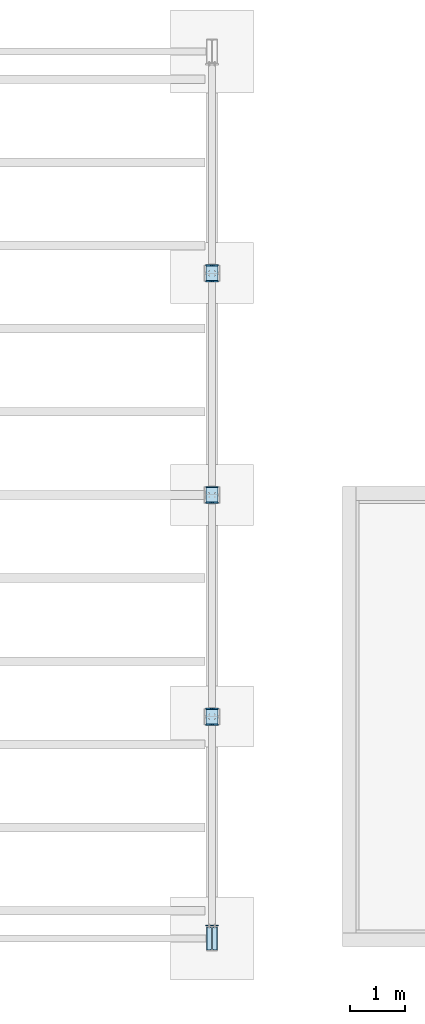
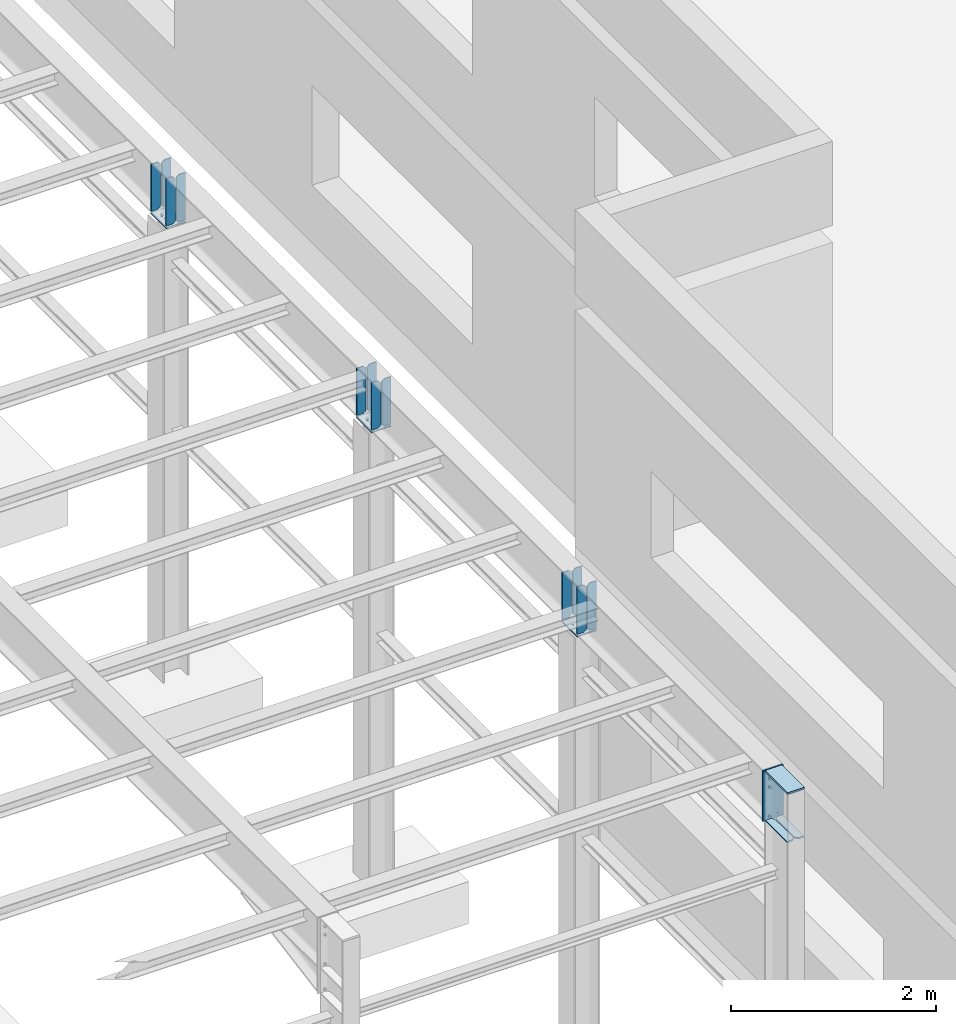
# Not in any storey, part 10 of 50: 19 plates, 46 openings.
"""IFC4 model written with IfcOpenShell, lengths in metres."""

from ifc_helpers import new_model, entity, si_unit, converted_unit, derived_unit, direction, frame, frame_2d, origin, origin_with_axes, origin_2d_with_axis, place, context, project, spatial, polyline, circle, outline, extrude, material, layer, layer_set, element, save


model = new_model("IFC4")

# Units and contexts
model_context = context("Model", 3, precision=1e-05, world=origin(), true_north=direction((6.123233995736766e-17, 1.0)))
ifc_project = project(units=[si_unit("LENGTHUNIT", "METRE"), si_unit("AREAUNIT", "SQUARE_METRE"), converted_unit("PLANEANGLEUNIT", "DEGREE", entity("IfcPlaneAngleMeasure", 0.017453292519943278), si_unit("PLANEANGLEUNIT", "RADIAN"), dimensions=[0, 0, 0, 0, 0, 0, 0]), si_unit("VOLUMEUNIT", "CUBIC_METRE"), derived_unit("THERMALTRANSMITTANCEUNIT", [(si_unit("MASSUNIT", "GRAM", prefix="KILO"), 1), (si_unit("THERMODYNAMICTEMPERATUREUNIT", "KELVIN"), -1), (si_unit("TIMEUNIT", "SECOND"), -3)])], contexts=[model_context])

# Site
site_placement = place(None, origin())
site = spatial("IfcSite", under=ifc_project, at=site_placement, Name="Default", CompositionType="ELEMENT")

# Plate, openings
ifc_material = material(Name="Dachdeckung - Blechdach")
ifc_layer_1 = layer(ifc_material, 15.0)
ifc_layer_set_1 = layer_set([ifc_layer_1], Name="Dachdeckung - Blechdach")
plate_1_placement = place(site_placement, frame((23.300144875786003, 6.07976753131, 5.385), z_axis=(0.0, 0.0, 1.0), x_axis=(-1.0, 0.0, 0.0)))
plate_1 = element("IfcPlate", 1, at=plate_1_placement, inside=site, material=ifc_layer_set_1, Name="Endplate", ObjectType="Endplate", context=model_context, shape_type="SweptSolid", body=[
    extrude(outline(polyline([(0.0, 0.0), (0.22, 0.0), (0.22, 0.3), (0.0, 0.3), (0.0, 0.0)])), origin_with_axes(), (0.0, 0.0, 1.0), 0.015),
])
opening_1_placement = place(plate_1_placement, frame((0.11, 0.15, -0.0005), z_axis=(0.0, 0.0, 1.0), x_axis=(0.0, 1.0, 0.0)))
element("IfcOpeningElement", 2, at=opening_1_placement, cuts=plate_1, ObjectType="Opening", context=model_context, shape_type="SweptSolid", body=[
    extrude(circle(Radius=0.009000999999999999, at=frame_2d((0.0375, 0.05), x_axis=(1.0, 0.0))), origin(), (0.0, 0.0, 1.0), 0.016),
])
opening_2_placement = place(plate_1_placement, frame((0.11, 0.15, -0.0005), z_axis=(0.0, 0.0, 1.0), x_axis=(0.0, 1.0, 0.0)))
element("IfcOpeningElement", 3, at=opening_2_placement, cuts=plate_1, ObjectType="Opening", context=model_context, shape_type="SweptSolid", body=[
    extrude(circle(Radius=0.009000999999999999, at=frame_2d((-0.0375, 0.05), x_axis=(1.0, 0.0))), origin(), (0.0, 0.0, 1.0), 0.016),
])
opening_3_placement = place(plate_1_placement, frame((0.11, 0.15, -0.0005), z_axis=(0.0, 0.0, 1.0), x_axis=(0.0, 1.0, 0.0)))
element("IfcOpeningElement", 4, at=opening_3_placement, cuts=plate_1, ObjectType="Opening", context=model_context, shape_type="SweptSolid", body=[
    extrude(circle(Radius=0.009000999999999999, at=frame_2d((0.0375, -0.05), x_axis=(1.0, 0.0))), origin(), (0.0, 0.0, 1.0), 0.016),
])
opening_4_placement = place(plate_1_placement, frame((0.11, 0.15, -0.0005), z_axis=(0.0, 0.0, 1.0), x_axis=(0.0, 1.0, 0.0)))
element("IfcOpeningElement", 5, at=opening_4_placement, cuts=plate_1, ObjectType="Opening", context=model_context, shape_type="SweptSolid", body=[
    extrude(circle(Radius=0.009000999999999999, at=frame_2d((-0.0375, -0.05), x_axis=(1.0, 0.0))), origin(), (0.0, 0.0, 1.0), 0.016),
])

ifc_layer_2 = layer(ifc_material, 14.0)
ifc_layer_set_2 = layer_set([ifc_layer_2], Name="Dachdeckung - Blechdach")
plate_2_placement = place(site_placement, frame((23.184144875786, 5.77976753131, 5.419), z_axis=(0.0, 1.0, 0.0), x_axis=(-1.0, 0.0, 0.0)))
plate_2 = element("IfcPlate", 6, at=plate_2_placement, inside=site, material=ifc_layer_set_2, Name="Stiffener#1", ObjectType="Stiffener#1", context=model_context, shape_type="SweptSolid", body=[
    extrude(outline(polyline([(0.0, 0.0), (0.104, 0.0), (0.104, 0.562), (0.0, 0.562), (0.0, 0.0)])), origin_with_axes(), (0.0, 0.0, 1.0), 0.014),
])
opening_5_placement = place(plate_2_placement, frame((0.0, 0.0, -1e-05), z_axis=(0.0, 0.0, 1.0), x_axis=(1.0, 0.0, 0.0)))
element("IfcOpeningElement", 7, at=opening_5_placement, cuts=plate_2, ObjectType="Opening", context=model_context, shape_type="SweptSolid", body=[
    extrude(outline(polyline([(0.0, 0.562), (0.0, 0.532), (0.03, 0.562), (0.0, 0.562)])), origin(), (0.0, 0.0, 1.0), 0.01402),
])
opening_6_placement = place(plate_2_placement, frame((0.0, 0.0, -1e-05), z_axis=(0.0, 0.0, 1.0), x_axis=(1.0, 0.0, 0.0)))
element("IfcOpeningElement", 8, at=opening_6_placement, cuts=plate_2, ObjectType="Opening", context=model_context, shape_type="SweptSolid", body=[
    extrude(outline(polyline([(0.0, 0.0), (0.03, 0.0), (0.0, 0.03), (0.0, 0.0)])), origin(), (0.0, 0.0, 1.0), 0.01402),
])

plate_3_placement = place(site_placement, frame((23.300144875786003, 5.77976753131, 5.419), z_axis=(0.0, 1.0, 0.0), x_axis=(-1.0, 0.0, 0.0)))
plate_3 = element("IfcPlate", 9, at=plate_3_placement, inside=site, material=ifc_layer_set_2, Name="Stiffener#2", ObjectType="Stiffener#2", context=model_context, shape_type="SweptSolid", body=[
    extrude(outline(polyline([(0.0, 0.0), (0.104, 0.0), (0.104, 0.562), (0.0, 0.562), (0.0, 0.0)])), origin_with_axes(), (0.0, 0.0, 1.0), 0.014),
])
opening_7_placement = place(plate_3_placement, frame((0.0, 0.0, -1e-05), z_axis=(0.0, 0.0, 1.0), x_axis=(1.0, 0.0, 0.0)))
element("IfcOpeningElement", 10, at=opening_7_placement, cuts=plate_3, ObjectType="Opening", context=model_context, shape_type="SweptSolid", body=[
    extrude(outline(polyline([(0.104, 0.562), (0.074, 0.562), (0.104, 0.532), (0.104, 0.562)])), origin(), (0.0, 0.0, 1.0), 0.01402),
])
opening_8_placement = place(plate_3_placement, frame((0.0, 0.0, -1e-05), z_axis=(0.0, 0.0, 1.0), x_axis=(1.0, 0.0, 0.0)))
element("IfcOpeningElement", 11, at=opening_8_placement, cuts=plate_3, ObjectType="Opening", context=model_context, shape_type="SweptSolid", body=[
    extrude(outline(polyline([(0.104, 0.0), (0.104, 0.03), (0.074, 0.0), (0.104, 0.0)])), origin(), (0.0, 0.0, 1.0), 0.01402),
])

plate_4_placement = place(site_placement, frame((23.080144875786, 6.07976753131, 5.419), z_axis=(0.0, -1.0, 0.0), x_axis=(1.0, 0.0, 0.0)))
plate_4 = element("IfcPlate", 12, at=plate_4_placement, inside=site, material=ifc_layer_set_2, Name="Stiffener#3", ObjectType="Stiffener#3", context=model_context, shape_type="SweptSolid", body=[
    extrude(outline(polyline([(0.0, 0.0), (0.104, 0.0), (0.104, 0.562), (0.0, 0.562), (0.0, 0.0)])), origin_with_axes(), (0.0, 0.0, 1.0), 0.014),
])
opening_9_placement = place(plate_4_placement, frame((0.0, 0.0, -1e-05), z_axis=(0.0, 0.0, 1.0), x_axis=(1.0, 0.0, 0.0)))
element("IfcOpeningElement", 13, at=opening_9_placement, cuts=plate_4, ObjectType="Opening", context=model_context, shape_type="SweptSolid", body=[
    extrude(outline(polyline([(0.104, 0.562), (0.074, 0.562), (0.104, 0.532), (0.104, 0.562)])), origin(), (0.0, 0.0, 1.0), 0.01402),
])
opening_10_placement = place(plate_4_placement, frame((0.0, 0.0, -1e-05), z_axis=(0.0, 0.0, 1.0), x_axis=(1.0, 0.0, 0.0)))
element("IfcOpeningElement", 14, at=opening_10_placement, cuts=plate_4, ObjectType="Opening", context=model_context, shape_type="SweptSolid", body=[
    extrude(outline(polyline([(0.104, 0.0), (0.104, 0.03), (0.074, 0.0), (0.104, 0.0)])), origin(), (0.0, 0.0, 1.0), 0.01402),
])

plate_5_placement = place(site_placement, frame((23.196144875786, 6.07976753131, 5.419), z_axis=(0.0, -1.0, 0.0), x_axis=(1.0, 0.0, 0.0)))
plate_5 = element("IfcPlate", 15, at=plate_5_placement, inside=site, material=ifc_layer_set_2, Name="Stiffener#4", ObjectType="Stiffener#4", context=model_context, shape_type="SweptSolid", body=[
    extrude(outline(polyline([(0.0, 0.0), (0.104, 0.0), (0.104, 0.562), (0.0, 0.562), (0.0, 0.0)])), origin_with_axes(), (0.0, 0.0, 1.0), 0.014),
])
opening_11_placement = place(plate_5_placement, frame((0.0, 0.0, -1e-05), z_axis=(0.0, 0.0, 1.0), x_axis=(1.0, 0.0, 0.0)))
element("IfcOpeningElement", 16, at=opening_11_placement, cuts=plate_5, ObjectType="Opening", context=model_context, shape_type="SweptSolid", body=[
    extrude(outline(polyline([(0.0, 0.562), (0.0, 0.532), (0.03, 0.562), (0.0, 0.562)])), origin(), (0.0, 0.0, 1.0), 0.01402),
])
opening_12_placement = place(plate_5_placement, frame((0.0, 0.0, -1e-05), z_axis=(0.0, 0.0, 1.0), x_axis=(1.0, 0.0, 0.0)))
element("IfcOpeningElement", 17, at=opening_12_placement, cuts=plate_5, ObjectType="Opening", context=model_context, shape_type="SweptSolid", body=[
    extrude(outline(polyline([(0.0, 0.0), (0.03, 0.0), (0.0, 0.03), (0.0, 0.0)])), origin(), (0.0, 0.0, 1.0), 0.01402),
])

plate_6_placement = place(site_placement, frame((23.300144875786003, 10.07976753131, 5.385), z_axis=(0.0, 0.0, 1.0), x_axis=(-1.0, 0.0, 0.0)))
plate_6 = element("IfcPlate", 18, at=plate_6_placement, inside=site, material=ifc_layer_set_1, Name="Endplate", ObjectType="Endplate", context=model_context, shape_type="SweptSolid", body=[
    extrude(outline(polyline([(0.0, 0.0), (0.22, 0.0), (0.22, 0.3), (0.0, 0.3), (0.0, 0.0)])), origin_with_axes(), (0.0, 0.0, 1.0), 0.015),
])
opening_13_placement = place(plate_6_placement, frame((0.11, 0.15, -0.0005), z_axis=(0.0, 0.0, 1.0), x_axis=(0.0, 1.0, 0.0)))
element("IfcOpeningElement", 19, at=opening_13_placement, cuts=plate_6, ObjectType="Opening", context=model_context, shape_type="SweptSolid", body=[
    extrude(circle(Radius=0.009000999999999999, at=frame_2d((0.0375, 0.05), x_axis=(1.0, 0.0))), origin(), (0.0, 0.0, 1.0), 0.016),
])
opening_14_placement = place(plate_6_placement, frame((0.11, 0.15, -0.0005), z_axis=(0.0, 0.0, 1.0), x_axis=(0.0, 1.0, 0.0)))
element("IfcOpeningElement", 20, at=opening_14_placement, cuts=plate_6, ObjectType="Opening", context=model_context, shape_type="SweptSolid", body=[
    extrude(circle(Radius=0.009000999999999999, at=frame_2d((-0.0375, 0.05), x_axis=(1.0, 0.0))), origin(), (0.0, 0.0, 1.0), 0.016),
])
opening_15_placement = place(plate_6_placement, frame((0.11, 0.15, -0.0005), z_axis=(0.0, 0.0, 1.0), x_axis=(0.0, 1.0, 0.0)))
element("IfcOpeningElement", 21, at=opening_15_placement, cuts=plate_6, ObjectType="Opening", context=model_context, shape_type="SweptSolid", body=[
    extrude(circle(Radius=0.009000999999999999, at=frame_2d((0.0375, -0.05), x_axis=(1.0, 0.0))), origin(), (0.0, 0.0, 1.0), 0.016),
])
opening_16_placement = place(plate_6_placement, frame((0.11, 0.15, -0.0005), z_axis=(0.0, 0.0, 1.0), x_axis=(0.0, 1.0, 0.0)))
element("IfcOpeningElement", 22, at=opening_16_placement, cuts=plate_6, ObjectType="Opening", context=model_context, shape_type="SweptSolid", body=[
    extrude(circle(Radius=0.009000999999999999, at=frame_2d((-0.0375, -0.05), x_axis=(1.0, 0.0))), origin(), (0.0, 0.0, 1.0), 0.016),
])

plate_7_placement = place(site_placement, frame((23.184144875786, 9.77976753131, 5.419), z_axis=(0.0, 1.0, 0.0), x_axis=(-1.0, 0.0, 0.0)))
plate_7 = element("IfcPlate", 23, at=plate_7_placement, inside=site, material=ifc_layer_set_2, Name="Stiffener#1", ObjectType="Stiffener#1", context=model_context, shape_type="SweptSolid", body=[
    extrude(outline(polyline([(0.0, 0.0), (0.104, 0.0), (0.104, 0.562), (0.0, 0.562), (0.0, 0.0)])), origin_with_axes(), (0.0, 0.0, 1.0), 0.014),
])
opening_17_placement = place(plate_7_placement, frame((0.0, 0.0, -1e-05), z_axis=(0.0, 0.0, 1.0), x_axis=(1.0, 0.0, 0.0)))
element("IfcOpeningElement", 24, at=opening_17_placement, cuts=plate_7, ObjectType="Opening", context=model_context, shape_type="SweptSolid", body=[
    extrude(outline(polyline([(0.0, 0.562), (0.0, 0.532), (0.03, 0.562), (0.0, 0.562)])), origin(), (0.0, 0.0, 1.0), 0.01402),
])
opening_18_placement = place(plate_7_placement, frame((0.0, 0.0, -1e-05), z_axis=(0.0, 0.0, 1.0), x_axis=(1.0, 0.0, 0.0)))
element("IfcOpeningElement", 25, at=opening_18_placement, cuts=plate_7, ObjectType="Opening", context=model_context, shape_type="SweptSolid", body=[
    extrude(outline(polyline([(0.0, 0.0), (0.03, 0.0), (0.0, 0.03), (0.0, 0.0)])), origin(), (0.0, 0.0, 1.0), 0.01402),
])

plate_8_placement = place(site_placement, frame((23.300144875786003, 9.77976753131, 5.419), z_axis=(0.0, 1.0, 0.0), x_axis=(-1.0, 0.0, 0.0)))
plate_8 = element("IfcPlate", 26, at=plate_8_placement, inside=site, material=ifc_layer_set_2, Name="Stiffener#2", ObjectType="Stiffener#2", context=model_context, shape_type="SweptSolid", body=[
    extrude(outline(polyline([(0.0, 0.0), (0.104, 0.0), (0.104, 0.562), (0.0, 0.562), (0.0, 0.0)])), origin_with_axes(), (0.0, 0.0, 1.0), 0.014),
])
opening_19_placement = place(plate_8_placement, frame((0.0, 0.0, -1e-05), z_axis=(0.0, 0.0, 1.0), x_axis=(1.0, 0.0, 0.0)))
element("IfcOpeningElement", 27, at=opening_19_placement, cuts=plate_8, ObjectType="Opening", context=model_context, shape_type="SweptSolid", body=[
    extrude(outline(polyline([(0.104, 0.562), (0.074, 0.562), (0.104, 0.532), (0.104, 0.562)])), origin(), (0.0, 0.0, 1.0), 0.01402),
])
opening_20_placement = place(plate_8_placement, frame((0.0, 0.0, -1e-05), z_axis=(0.0, 0.0, 1.0), x_axis=(1.0, 0.0, 0.0)))
element("IfcOpeningElement", 28, at=opening_20_placement, cuts=plate_8, ObjectType="Opening", context=model_context, shape_type="SweptSolid", body=[
    extrude(outline(polyline([(0.104, 0.0), (0.104, 0.03), (0.074, 0.0), (0.104, 0.0)])), origin(), (0.0, 0.0, 1.0), 0.01402),
])

plate_9_placement = place(site_placement, frame((23.080144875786, 10.07976753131, 5.419), z_axis=(0.0, -1.0, 0.0), x_axis=(1.0, 0.0, 0.0)))
plate_9 = element("IfcPlate", 29, at=plate_9_placement, inside=site, material=ifc_layer_set_2, Name="Stiffener#3", ObjectType="Stiffener#3", context=model_context, shape_type="SweptSolid", body=[
    extrude(outline(polyline([(0.0, 0.0), (0.104, 0.0), (0.104, 0.562), (0.0, 0.562), (0.0, 0.0)])), origin_with_axes(), (0.0, 0.0, 1.0), 0.014),
])
opening_21_placement = place(plate_9_placement, frame((0.0, 0.0, -1e-05), z_axis=(0.0, 0.0, 1.0), x_axis=(1.0, 0.0, 0.0)))
element("IfcOpeningElement", 30, at=opening_21_placement, cuts=plate_9, ObjectType="Opening", context=model_context, shape_type="SweptSolid", body=[
    extrude(outline(polyline([(0.104, 0.562), (0.074, 0.562), (0.104, 0.532), (0.104, 0.562)])), origin(), (0.0, 0.0, 1.0), 0.01402),
])
opening_22_placement = place(plate_9_placement, frame((0.0, 0.0, -1e-05), z_axis=(0.0, 0.0, 1.0), x_axis=(1.0, 0.0, 0.0)))
element("IfcOpeningElement", 31, at=opening_22_placement, cuts=plate_9, ObjectType="Opening", context=model_context, shape_type="SweptSolid", body=[
    extrude(outline(polyline([(0.104, 0.0), (0.104, 0.03), (0.074, 0.0), (0.104, 0.0)])), origin(), (0.0, 0.0, 1.0), 0.01402),
])

plate_10_placement = place(site_placement, frame((23.196144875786, 10.07976753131, 5.419), z_axis=(0.0, -1.0, 0.0), x_axis=(1.0, 0.0, 0.0)))
plate_10 = element("IfcPlate", 32, at=plate_10_placement, inside=site, material=ifc_layer_set_2, Name="Stiffener#4", ObjectType="Stiffener#4", context=model_context, shape_type="SweptSolid", body=[
    extrude(outline(polyline([(0.0, 0.0), (0.104, 0.0), (0.104, 0.562), (0.0, 0.562), (0.0, 0.0)])), origin_with_axes(), (0.0, 0.0, 1.0), 0.014),
])
opening_23_placement = place(plate_10_placement, frame((0.0, 0.0, -1e-05), z_axis=(0.0, 0.0, 1.0), x_axis=(1.0, 0.0, 0.0)))
element("IfcOpeningElement", 33, at=opening_23_placement, cuts=plate_10, ObjectType="Opening", context=model_context, shape_type="SweptSolid", body=[
    extrude(outline(polyline([(0.0, 0.562), (0.0, 0.532), (0.03, 0.562), (0.0, 0.562)])), origin(), (0.0, 0.0, 1.0), 0.01402),
])
opening_24_placement = place(plate_10_placement, frame((0.0, 0.0, -1e-05), z_axis=(0.0, 0.0, 1.0), x_axis=(1.0, 0.0, 0.0)))
element("IfcOpeningElement", 34, at=opening_24_placement, cuts=plate_10, ObjectType="Opening", context=model_context, shape_type="SweptSolid", body=[
    extrude(outline(polyline([(0.0, 0.0), (0.03, 0.0), (0.0, 0.03), (0.0, 0.0)])), origin(), (0.0, 0.0, 1.0), 0.01402),
])

plate_11_placement = place(site_placement, frame((23.300144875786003, 14.07976753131, 5.385), z_axis=(0.0, 0.0, 1.0), x_axis=(-1.0, 0.0, 0.0)))
plate_11 = element("IfcPlate", 35, at=plate_11_placement, inside=site, material=ifc_layer_set_1, Name="Endplate", ObjectType="Endplate", context=model_context, shape_type="SweptSolid", body=[
    extrude(outline(polyline([(0.0, 0.0), (0.22, 0.0), (0.22, 0.3), (0.0, 0.3), (0.0, 0.0)])), origin_with_axes(), (0.0, 0.0, 1.0), 0.015),
])
opening_25_placement = place(plate_11_placement, frame((0.11, 0.15, -0.0005), z_axis=(0.0, 0.0, 1.0), x_axis=(0.0, -1.0, 0.0)))
element("IfcOpeningElement", 36, at=opening_25_placement, cuts=plate_11, ObjectType="Opening", context=model_context, shape_type="SweptSolid", body=[
    extrude(circle(Radius=0.009000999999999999, at=frame_2d((0.0375, 0.05), x_axis=(1.0, 0.0))), origin(), (0.0, 0.0, 1.0), 0.016),
])
opening_26_placement = place(plate_11_placement, frame((0.11, 0.15, -0.0005), z_axis=(0.0, 0.0, 1.0), x_axis=(0.0, -1.0, 0.0)))
element("IfcOpeningElement", 37, at=opening_26_placement, cuts=plate_11, ObjectType="Opening", context=model_context, shape_type="SweptSolid", body=[
    extrude(circle(Radius=0.009000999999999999, at=frame_2d((-0.0375, 0.05), x_axis=(1.0, 0.0))), origin(), (0.0, 0.0, 1.0), 0.016),
])
opening_27_placement = place(plate_11_placement, frame((0.11, 0.15, -0.0005), z_axis=(0.0, 0.0, 1.0), x_axis=(0.0, -1.0, 0.0)))
element("IfcOpeningElement", 38, at=opening_27_placement, cuts=plate_11, ObjectType="Opening", context=model_context, shape_type="SweptSolid", body=[
    extrude(circle(Radius=0.009000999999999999, at=frame_2d((0.0375, -0.05), x_axis=(1.0, 0.0))), origin(), (0.0, 0.0, 1.0), 0.016),
])
opening_28_placement = place(plate_11_placement, frame((0.11, 0.15, -0.0005), z_axis=(0.0, 0.0, 1.0), x_axis=(0.0, -1.0, 0.0)))
element("IfcOpeningElement", 39, at=opening_28_placement, cuts=plate_11, ObjectType="Opening", context=model_context, shape_type="SweptSolid", body=[
    extrude(circle(Radius=0.009000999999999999, at=frame_2d((-0.0375, -0.05), x_axis=(1.0, 0.0))), origin(), (0.0, 0.0, 1.0), 0.016),
])

plate_12_placement = place(site_placement, frame((23.080144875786, 14.07976753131, 5.419), z_axis=(0.0, -1.0, 0.0), x_axis=(1.0, 0.0, 0.0)))
plate_12 = element("IfcPlate", 40, at=plate_12_placement, inside=site, material=ifc_layer_set_2, Name="Stiffener#1", ObjectType="Stiffener#1", context=model_context, shape_type="SweptSolid", body=[
    extrude(outline(polyline([(0.0, 0.0), (0.104, 0.0), (0.104, 0.562), (0.0, 0.562), (0.0, 0.0)])), origin_with_axes(), (0.0, 0.0, 1.0), 0.014),
])
opening_29_placement = place(plate_12_placement, frame((0.0, 0.0, -1e-05), z_axis=(0.0, 0.0, 1.0), x_axis=(1.0, 0.0, 0.0)))
element("IfcOpeningElement", 41, at=opening_29_placement, cuts=plate_12, ObjectType="Opening", context=model_context, shape_type="SweptSolid", body=[
    extrude(outline(polyline([(0.104, 0.562), (0.074, 0.562), (0.104, 0.532), (0.104, 0.562)])), origin(), (0.0, 0.0, 1.0), 0.01402),
])
opening_30_placement = place(plate_12_placement, frame((0.0, 0.0, -1e-05), z_axis=(0.0, 0.0, 1.0), x_axis=(1.0, 0.0, 0.0)))
element("IfcOpeningElement", 42, at=opening_30_placement, cuts=plate_12, ObjectType="Opening", context=model_context, shape_type="SweptSolid", body=[
    extrude(outline(polyline([(0.104, 0.0), (0.104, 0.03), (0.074, 0.0), (0.104, 0.0)])), origin(), (0.0, 0.0, 1.0), 0.01402),
])

plate_13_placement = place(site_placement, frame((23.196144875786, 14.07976753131, 5.419), z_axis=(0.0, -1.0, 0.0), x_axis=(1.0, 0.0, 0.0)))
plate_13 = element("IfcPlate", 43, at=plate_13_placement, inside=site, material=ifc_layer_set_2, Name="Stiffener#2", ObjectType="Stiffener#2", context=model_context, shape_type="SweptSolid", body=[
    extrude(outline(polyline([(0.0, 0.0), (0.104, 0.0), (0.104, 0.562), (0.0, 0.562), (0.0, 0.0)])), origin_with_axes(), (0.0, 0.0, 1.0), 0.014),
])
opening_31_placement = place(plate_13_placement, frame((0.0, 0.0, -1e-05), z_axis=(0.0, 0.0, 1.0), x_axis=(1.0, 0.0, 0.0)))
element("IfcOpeningElement", 44, at=opening_31_placement, cuts=plate_13, ObjectType="Opening", context=model_context, shape_type="SweptSolid", body=[
    extrude(outline(polyline([(0.0, 0.562), (0.0, 0.532), (0.03, 0.562), (0.0, 0.562)])), origin(), (0.0, 0.0, 1.0), 0.01402),
])
opening_32_placement = place(plate_13_placement, frame((0.0, 0.0, -1e-05), z_axis=(0.0, 0.0, 1.0), x_axis=(1.0, 0.0, 0.0)))
element("IfcOpeningElement", 45, at=opening_32_placement, cuts=plate_13, ObjectType="Opening", context=model_context, shape_type="SweptSolid", body=[
    extrude(outline(polyline([(0.0, 0.0), (0.03, 0.0), (0.0, 0.03), (0.0, 0.0)])), origin(), (0.0, 0.0, 1.0), 0.01402),
])

plate_14_placement = place(site_placement, frame((23.184144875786, 13.77976753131, 5.419), z_axis=(0.0, 1.0, 0.0), x_axis=(-1.0, 0.0, 0.0)))
plate_14 = element("IfcPlate", 46, at=plate_14_placement, inside=site, material=ifc_layer_set_2, Name="Stiffener#3", ObjectType="Stiffener#3", context=model_context, shape_type="SweptSolid", body=[
    extrude(outline(polyline([(0.0, 0.0), (0.104, 0.0), (0.104, 0.562), (0.0, 0.562), (0.0, 0.0)])), origin_with_axes(), (0.0, 0.0, 1.0), 0.014),
])
opening_33_placement = place(plate_14_placement, frame((0.0, 0.0, -1e-05), z_axis=(0.0, 0.0, 1.0), x_axis=(1.0, 0.0, 0.0)))
element("IfcOpeningElement", 47, at=opening_33_placement, cuts=plate_14, ObjectType="Opening", context=model_context, shape_type="SweptSolid", body=[
    extrude(outline(polyline([(0.0, 0.562), (0.0, 0.532), (0.03, 0.562), (0.0, 0.562)])), origin(), (0.0, 0.0, 1.0), 0.01402),
])
opening_34_placement = place(plate_14_placement, frame((0.0, 0.0, -1e-05), z_axis=(0.0, 0.0, 1.0), x_axis=(1.0, 0.0, 0.0)))
element("IfcOpeningElement", 48, at=opening_34_placement, cuts=plate_14, ObjectType="Opening", context=model_context, shape_type="SweptSolid", body=[
    extrude(outline(polyline([(0.0, 0.0), (0.03, 0.0), (0.0, 0.03), (0.0, 0.0)])), origin(), (0.0, 0.0, 1.0), 0.01402),
])

plate_15_placement = place(site_placement, frame((23.300144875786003, 13.77976753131, 5.419), z_axis=(0.0, 1.0, 0.0), x_axis=(-1.0, 0.0, 0.0)))
plate_15 = element("IfcPlate", 49, at=plate_15_placement, inside=site, material=ifc_layer_set_2, Name="Stiffener#4", ObjectType="Stiffener#4", context=model_context, shape_type="SweptSolid", body=[
    extrude(outline(polyline([(0.0, 0.0), (0.104, 0.0), (0.104, 0.562), (0.0, 0.562), (0.0, 0.0)])), origin_with_axes(), (0.0, 0.0, 1.0), 0.014),
])
opening_35_placement = place(plate_15_placement, frame((0.0, 0.0, -1e-05), z_axis=(0.0, 0.0, 1.0), x_axis=(1.0, 0.0, 0.0)))
element("IfcOpeningElement", 50, at=opening_35_placement, cuts=plate_15, ObjectType="Opening", context=model_context, shape_type="SweptSolid", body=[
    extrude(outline(polyline([(0.104, 0.562), (0.074, 0.562), (0.104, 0.532), (0.104, 0.562)])), origin(), (0.0, 0.0, 1.0), 0.01402),
])
opening_36_placement = place(plate_15_placement, frame((0.0, 0.0, -1e-05), z_axis=(0.0, 0.0, 1.0), x_axis=(1.0, 0.0, 0.0)))
element("IfcOpeningElement", 51, at=opening_36_placement, cuts=plate_15, ObjectType="Opening", context=model_context, shape_type="SweptSolid", body=[
    extrude(outline(polyline([(0.104, 0.0), (0.104, 0.03), (0.074, 0.0), (0.104, 0.0)])), origin(), (0.0, 0.0, 1.0), 0.01402),
])

# Plate
ifc_layer_3 = layer(ifc_material, 20.0)
ifc_layer_set_3 = layer_set([ifc_layer_3], Name="Dachdeckung - Blechdach")
plate_16_placement = place(site_placement, frame((23.285144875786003, 2.1497675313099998, 5.98), z_axis=(0.0, 0.0, 1.0), x_axis=(-1.0, 0.0, 0.0)))
element("IfcPlate", 52, at=plate_16_placement, inside=site, material=ifc_layer_set_3, Name="Coverplate", ObjectType="Coverplate", context=model_context, shape_type="SweptSolid", body=[
    extrude(outline(polyline([(0.0, 0.0), (0.19, 0.0), (0.19, 0.44), (0.0, 0.44), (0.0, 0.0)])), origin_with_axes(), (0.0, 0.0, 1.0), 0.02),
])

# Plate, openings
plate_17_placement = place(site_placement, frame((23.305144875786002, 2.1697675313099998, 5.995), z_axis=(0.0, -1.0, 0.0), x_axis=(-1.0, 0.0, 0.0)))
plate_17 = element("IfcPlate", 53, at=plate_17_placement, inside=site, material=ifc_layer_set_1, Name="Endplate", ObjectType="Endplate", context=model_context, shape_type="SweptSolid", body=[
    extrude(outline(polyline([(0.0, 0.0), (0.23, 0.0), (0.23, 0.6), (0.0, 0.6), (0.0, 0.0)])), origin_with_axes(), (0.0, 0.0, 1.0), 0.015),
])
opening_37_placement = place(plate_17_placement, frame((0.165, 0.55, 0.0155), z_axis=(0.0, 0.0, -1.0), x_axis=(1.0, 0.0, 0.0)))
element("IfcOpeningElement", 54, at=opening_37_placement, cuts=plate_17, ObjectType="Opening", context=model_context, shape_type="SweptSolid", body=[
    extrude(circle(Radius=0.009000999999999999, at=origin_2d_with_axis()), origin(), (0.0, 0.0, 1.0), 0.016),
])
opening_38_placement = place(plate_17_placement, frame((0.065, 0.2, 0.0155), z_axis=(0.0, 0.0, -1.0), x_axis=(1.0, 0.0, 0.0)))
element("IfcOpeningElement", 55, at=opening_38_placement, cuts=plate_17, ObjectType="Opening", context=model_context, shape_type="SweptSolid", body=[
    extrude(circle(Radius=0.009000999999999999, at=origin_2d_with_axis()), origin(), (0.0, 0.0, 1.0), 0.016),
])
opening_39_placement = place(plate_17_placement, frame((0.165, 0.1, 0.0155), z_axis=(0.0, 0.0, -1.0), x_axis=(1.0, 0.0, 0.0)))
element("IfcOpeningElement", 56, at=opening_39_placement, cuts=plate_17, ObjectType="Opening", context=model_context, shape_type="SweptSolid", body=[
    extrude(circle(Radius=0.009000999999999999, at=origin_2d_with_axis()), origin(), (0.0, 0.0, 1.0), 0.016),
])
opening_40_placement = place(plate_17_placement, frame((0.065, 0.1, 0.0155), z_axis=(0.0, 0.0, -1.0), x_axis=(1.0, 0.0, 0.0)))
element("IfcOpeningElement", 57, at=opening_40_placement, cuts=plate_17, ObjectType="Opening", context=model_context, shape_type="SweptSolid", body=[
    extrude(circle(Radius=0.009000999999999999, at=origin_2d_with_axis()), origin(), (0.0, 0.0, 1.0), 0.016),
])
opening_41_placement = place(plate_17_placement, frame((0.165, 0.2, 0.0155), z_axis=(0.0, 0.0, -1.0), x_axis=(1.0, 0.0, 0.0)))
element("IfcOpeningElement", 58, at=opening_41_placement, cuts=plate_17, ObjectType="Opening", context=model_context, shape_type="SweptSolid", body=[
    extrude(circle(Radius=0.009000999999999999, at=origin_2d_with_axis()), origin(), (0.0, 0.0, 1.0), 0.016),
])
opening_42_placement = place(plate_17_placement, frame((0.065, 0.55, 0.0155), z_axis=(0.0, 0.0, -1.0), x_axis=(1.0, 0.0, 0.0)))
element("IfcOpeningElement", 59, at=opening_42_placement, cuts=plate_17, ObjectType="Opening", context=model_context, shape_type="SweptSolid", body=[
    extrude(circle(Radius=0.009000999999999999, at=origin_2d_with_axis()), origin(), (0.0, 0.0, 1.0), 0.016),
])

plate_18_placement = place(site_placement, frame((23.194844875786, 2.13916753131, 5.415), z_axis=(0.0, 0.0, -1.0), x_axis=(1.0, 0.0, 0.0)))
plate_18 = element("IfcPlate", 60, at=plate_18_placement, inside=site, material=ifc_layer_set_1, Name="Stiffener#2", ObjectType="Stiffener#2", context=model_context, shape_type="SweptSolid", body=[
    extrude(outline(polyline([(0.0, 0.0), (0.09, 0.0), (0.09, 0.4188), (0.0, 0.4188), (0.0, 0.0)])), origin_with_axes(), (0.0, 0.0, 1.0), 0.015),
])
opening_43_placement = place(plate_18_placement, frame((0.0, 0.0, -1e-05), z_axis=(0.0, 0.0, 1.0), x_axis=(1.0, 0.0, 0.0)))
element("IfcOpeningElement", 61, at=opening_43_placement, cuts=plate_18, ObjectType="Opening", context=model_context, shape_type="SweptSolid", body=[
    extrude(outline(polyline([(0.0, 0.4188), (0.0, 0.38880000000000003), (0.03, 0.4188), (0.0, 0.4188)])), origin(), (0.0, 0.0, 1.0), 0.01502),
])
opening_44_placement = place(plate_18_placement, frame((0.0, 0.0, -1e-05), z_axis=(0.0, 0.0, 1.0), x_axis=(1.0, 0.0, 0.0)))
element("IfcOpeningElement", 62, at=opening_44_placement, cuts=plate_18, ObjectType="Opening", context=model_context, shape_type="SweptSolid", body=[
    extrude(outline(polyline([(0.0, 0.0), (0.03, 0.0), (0.0, 0.03), (0.0, 0.0)])), origin(), (0.0, 0.0, 1.0), 0.01502),
])

plate_19_placement = place(site_placement, frame((23.095444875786, 2.13916753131, 5.415), z_axis=(0.0, 0.0, -1.0), x_axis=(1.0, 0.0, 0.0)))
plate_19 = element("IfcPlate", 63, at=plate_19_placement, inside=site, material=ifc_layer_set_1, Name="Stiffener#2", ObjectType="Stiffener#2", context=model_context, shape_type="SweptSolid", body=[
    extrude(outline(polyline([(0.0, 0.0), (0.09, 0.0), (0.09, 0.4188), (0.0, 0.4188), (0.0, 0.0)])), origin_with_axes(), (0.0, 0.0, 1.0), 0.015),
])
opening_45_placement = place(plate_19_placement, frame((0.0, 0.0, -1e-05), z_axis=(0.0, 0.0, 1.0), x_axis=(1.0, 0.0, 0.0)))
element("IfcOpeningElement", 64, at=opening_45_placement, cuts=plate_19, ObjectType="Opening", context=model_context, shape_type="SweptSolid", body=[
    extrude(outline(polyline([(0.09, 0.4188), (0.06, 0.4188), (0.09, 0.38880000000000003), (0.09, 0.4188)])), origin(), (0.0, 0.0, 1.0), 0.01502),
])
opening_46_placement = place(plate_19_placement, frame((0.0, 0.0, -1e-05), z_axis=(0.0, 0.0, 1.0), x_axis=(1.0, 0.0, 0.0)))
element("IfcOpeningElement", 65, at=opening_46_placement, cuts=plate_19, ObjectType="Opening", context=model_context, shape_type="SweptSolid", body=[
    extrude(outline(polyline([(0.09, 0.0), (0.09, 0.03), (0.06, 0.0), (0.09, 0.0)])), origin(), (0.0, 0.0, 1.0), 0.01502),
])

save(model, "model.ifc")
